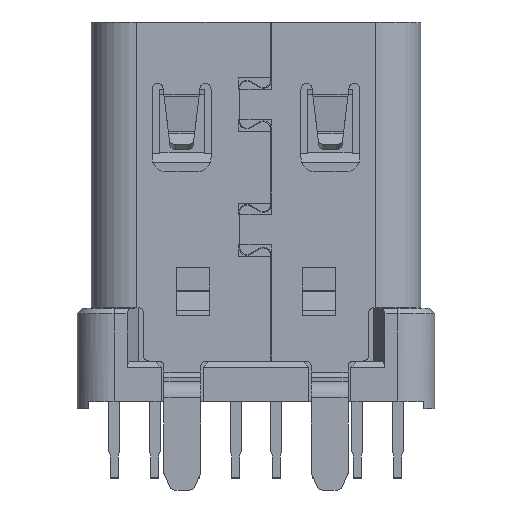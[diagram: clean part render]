
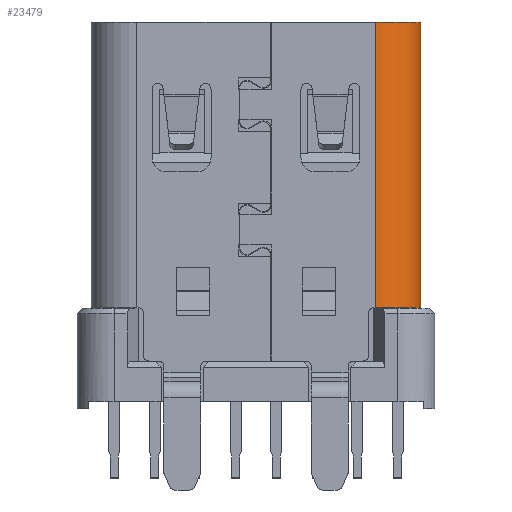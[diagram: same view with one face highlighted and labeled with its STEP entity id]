
A CAD part, front view. The second image highlights one B-rep face of the part: STEP entity #23479.
In plain terms, the highlighted cylindrical face has radius 1.23 mm (diameter 2.46 mm), a partial arc.
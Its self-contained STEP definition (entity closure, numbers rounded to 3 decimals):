
#5004=CARTESIAN_POINT('',(3.24,-0.35,5.25));
#5005=DIRECTION('',(0.,0.,-1.));
#5006=DIRECTION('',(1.,0.,0.));
#5007=AXIS2_PLACEMENT_3D('',#5004,#5005,#5006);
#7312=CARTESIAN_POINT('',(3.24,-0.35,-2.5));
#7313=DIRECTION('',(0.,0.,1.));
#7314=DIRECTION('',(0.,-1.,0.));
#7315=AXIS2_PLACEMENT_3D('',#7312,#7313,#7314);
#7321=DIRECTION('',(0.,0.,1.));
#7322=VECTOR('',#7321,7.75);
#7323=CARTESIAN_POINT('',(3.24,-1.58,-2.5));
#7324=LINE('',#7323,#7322);
#7325=DIRECTION('',(0.,0.,-1.));
#7326=VECTOR('',#7325,7.75);
#7327=CARTESIAN_POINT('',(4.47,-0.35,5.25));
#7328=LINE('',#7327,#7326);
#12356=CARTESIAN_POINT('',(4.47,-0.35,5.25));
#12357=VERTEX_POINT('',#12356);
#12358=CARTESIAN_POINT('',(3.24,-1.58,5.25));
#12359=VERTEX_POINT('',#12358);
#12504=CARTESIAN_POINT('',(3.24,-1.58,-2.5));
#12505=VERTEX_POINT('',#12504);
#13085=CARTESIAN_POINT('',(4.47,-0.35,-2.5));
#13086=VERTEX_POINT('',#13085);
#23467=CARTESIAN_POINT('',(3.24,-0.35,-3.95));
#23468=DIRECTION('',(0.,0.,1.));
#23469=DIRECTION('',(1.,0.,0.));
#23470=AXIS2_PLACEMENT_3D('',#23467,#23468,#23469);
#23471=CYLINDRICAL_SURFACE('',#23470,1.23);
#23472=ORIENTED_EDGE('',*,*,#23460,.F.);
#23473=ORIENTED_EDGE('',*,*,#20521,.T.);
#23474=ORIENTED_EDGE('',*,*,#20432,.F.);
#23476=ORIENTED_EDGE('',*,*,#23475,.T.);
#23477=EDGE_LOOP('',(#23472,#23473,#23474,#23476));
#23478=FACE_OUTER_BOUND('',#23477,.F.);
#23479=ADVANCED_FACE('',(#23478),#23471,.T.);
#5008=CIRCLE('',#5007,1.23);
#7316=CIRCLE('',#7315,1.23);
#20432=EDGE_CURVE('',#12357,#12359,#5008,.T.);
#20521=EDGE_CURVE('',#12505,#12359,#7324,.T.);
#23460=EDGE_CURVE('',#12505,#13086,#7316,.T.);
#23475=EDGE_CURVE('',#12357,#13086,#7328,.T.);
